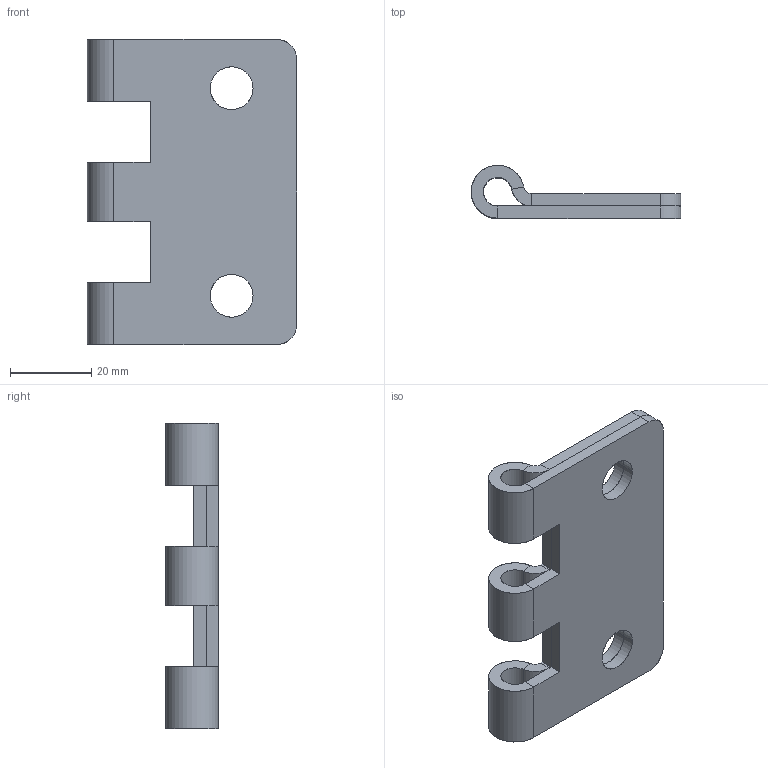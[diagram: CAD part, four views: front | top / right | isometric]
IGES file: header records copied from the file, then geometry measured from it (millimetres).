
Start section: SolidWorks IGES file using analytic representation for surfaces
Global section: file name: Z:\Mes documents\ATAO iges\Gamme CC\CC 409\409.010.00.IGS; native system: SolidWorks 2008; preprocessor: SolidWorks 2008; author: cbrechard; date: 110628.162324; units: millimetre
Bounding box: 51.5 x 13 x 75 mm (x, y, z)
Surface area: 15511.5 mm2 (no closed solid volume)
Topology: 0 solids, 0 shells, 58 faces, 1040 edges, 1040 vertices
Faces by surface type: bspline 34, revolution 24
